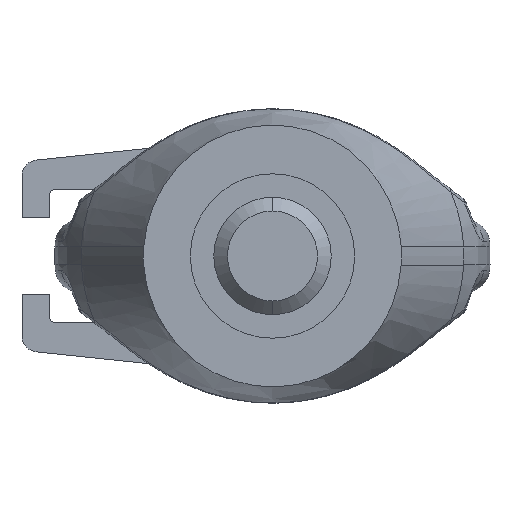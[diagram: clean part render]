
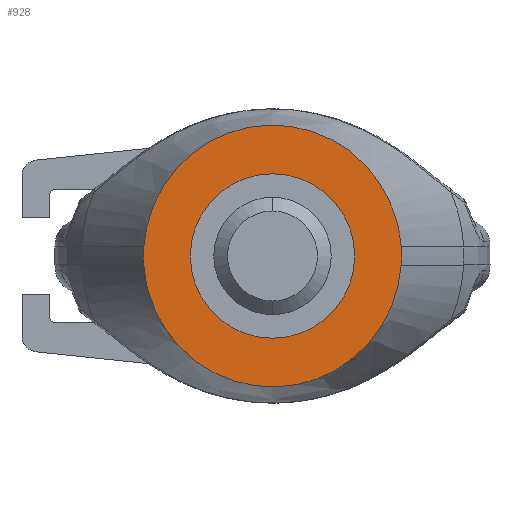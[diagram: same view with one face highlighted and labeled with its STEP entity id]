
A CAD part, front view. The second image highlights one B-rep face of the part: STEP entity #928.
In plain terms, the highlighted planar face has unit normal (0, -1, 0).
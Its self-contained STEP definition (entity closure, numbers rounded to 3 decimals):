
#928=ADVANCED_FACE('',(#2037,#2038),#2039,.T.);
#2037=FACE_OUTER_BOUND('',#10215,.T.);
#2038=FACE_BOUND('',#10216,.T.);
#2039=PLANE('',#10217);
#10215=EDGE_LOOP('',(#14287,#14288,#14289,#14290));
#10216=EDGE_LOOP('',(#14291,#14292));
#10217=AXIS2_PLACEMENT_3D('',#14293,#14294,#14295);
#14287=ORIENTED_EDGE('',*,*,#16338,.F.);
#14288=ORIENTED_EDGE('',*,*,#16647,.T.);
#14289=ORIENTED_EDGE('',*,*,#16332,.F.);
#14290=ORIENTED_EDGE('',*,*,#16648,.T.);
#14291=ORIENTED_EDGE('',*,*,#16645,.T.);
#14292=ORIENTED_EDGE('',*,*,#16004,.T.);
#14293=CARTESIAN_POINT('',(21.0,-56.0,0.0));
#14294=DIRECTION('',(0.0,-1.0,0.0));
#14295=DIRECTION('',(0.0,0.0,-1.0));
#16004=EDGE_CURVE('',#17649,#17646,#17650,.F.);
#16332=EDGE_CURVE('',#18231,#18233,#18234,.T.);
#16338=EDGE_CURVE('',#18242,#18244,#18245,.T.);
#16645=EDGE_CURVE('',#17646,#17649,#18648,.F.);
#16647=EDGE_CURVE('',#18242,#18233,#18650,.T.);
#16648=EDGE_CURVE('',#18231,#18244,#18651,.T.);
#17646=VERTEX_POINT('',#20501);
#17649=VERTEX_POINT('',#20505);
#17650=CIRCLE('',#20506,21.);
#18231=VERTEX_POINT('',#23543);
#18233=VERTEX_POINT('',#23599);
#18234=B_SPLINE_CURVE_WITH_KNOTS('',3,(#23600,#23601,#23602,#23603,#23604,#23605,#23606,#23607,#23608,#23609,#23610,#23611,#23612,#23613,#23614,#23615,#23616,#23617,#23618,#23619,#23620,#23621,#23622,#23623,#23624,#23625,#23626,#23627,#23628,#23629,#23630,#23631,#23632,#23633,#23634,#23635,#23636,#23637,#23638,#23639,#23640,#23641,#23642),.UNSPECIFIED.,.F.,.F.,(4,1,1,1,1,1,1,1,1,1,1,1,1,1,1,1,1,1,1,1,1,1,1,1,1,1,1,1,1,1,1,1,1,1,1,1,1,1,1,1,4),(0.019,0.023,0.027,0.029,0.031,0.047,0.063,0.078,0.094,0.109,0.125,0.141,0.156,0.188,0.219,0.25,0.281,0.313,0.375,0.438,0.5,0.563,0.625,0.688,0.719,0.75,0.781,0.813,0.844,0.859,0.875,0.891,0.906,0.922,0.938,0.953,0.969,0.971,0.973,0.977,0.981),.UNSPECIFIED.);
#18242=VERTEX_POINT('',#23944);
#18244=VERTEX_POINT('',#24000);
#18245=B_SPLINE_CURVE_WITH_KNOTS('',3,(#24001,#24002,#24003,#24004,#24005,#24006,#24007,#24008,#24009,#24010,#24011,#24012,#24013,#24014,#24015,#24016,#24017,#24018,#24019,#24020,#24021,#24022,#24023,#24024,#24025,#24026,#24027,#24028,#24029,#24030,#24031,#24032,#24033,#24034,#24035,#24036,#24037,#24038,#24039,#24040,#24041,#24042,#24043),.UNSPECIFIED.,.F.,.F.,(4,1,1,1,1,1,1,1,1,1,1,1,1,1,1,1,1,1,1,1,1,1,1,1,1,1,1,1,1,1,1,1,1,1,1,1,1,1,1,1,4),(0.019,0.023,0.027,0.029,0.031,0.047,0.062,0.078,0.094,0.109,0.125,0.141,0.156,0.187,0.219,0.25,0.281,0.312,0.375,0.437,0.5,0.562,0.625,0.687,0.719,0.75,0.781,0.812,0.844,0.859,0.875,0.891,0.906,0.922,0.937,0.953,0.969,0.971,0.973,0.977,0.981),.UNSPECIFIED.);
#18648=CIRCLE('',#28360,21.);
#18650=CIRCLE('',#28362,26.396);
#18651=CIRCLE('',#28363,26.396);
#20501=CARTESIAN_POINT('',(0.,-56.0,-21.));
#20505=CARTESIAN_POINT('',(0.,-56.0,21.));
#20506=AXIS2_PLACEMENT_3D('',#30168,#30169,#30170);
#23543=CARTESIAN_POINT('',(32.871,-56.,-2.302));
#23599=CARTESIAN_POINT('',(-32.871,-56.,-2.302));
#23600=CARTESIAN_POINT('',(32.871,-56.,-2.302));
#23601=CARTESIAN_POINT('',(32.856,-56.,-2.477));
#23602=CARTESIAN_POINT('',(32.827,-56.,-2.805));
#23603=CARTESIAN_POINT('',(32.795,-56.,-3.176));
#23604=CARTESIAN_POINT('',(32.768,-56.,-3.447));
#23605=CARTESIAN_POINT('',(32.699,-56.,-4.115));
#23606=CARTESIAN_POINT('',(32.55,-56.,-5.252));
#23607=CARTESIAN_POINT('',(32.263,-56.,-6.844));
#23608=CARTESIAN_POINT('',(31.901,-56.,-8.42));
#23609=CARTESIAN_POINT('',(31.464,-56.,-9.976));
#23610=CARTESIAN_POINT('',(30.953,-56.,-11.511));
#23611=CARTESIAN_POINT('',(30.368,-56.,-13.018));
#23612=CARTESIAN_POINT('',(29.712,-56.,-14.496));
#23613=CARTESIAN_POINT('',(28.744,-56.0,-16.423));
#23614=CARTESIAN_POINT('',(27.362,-56.0,-18.739));
#23615=CARTESIAN_POINT('',(25.442,-56.0,-21.345));
#23616=CARTESIAN_POINT('',(23.279,-56.0,-23.754));
#23617=CARTESIAN_POINT('',(20.892,-56.,-25.94));
#23618=CARTESIAN_POINT('',(17.44,-56.,-28.53));
#23619=CARTESIAN_POINT('',(12.678,-56.,-31.109));
#23620=CARTESIAN_POINT('',(6.467,-56.,-33.019));
#23621=CARTESIAN_POINT('',(0.,-56.,-33.666));
#23622=CARTESIAN_POINT('',(-6.467,-56.,-33.019));
#23623=CARTESIAN_POINT('',(-12.678,-56.,-31.109));
#23624=CARTESIAN_POINT('',(-17.44,-56.,-28.53));
#23625=CARTESIAN_POINT('',(-20.892,-56.,-25.94));
#23626=CARTESIAN_POINT('',(-23.279,-56.,-23.754));
#23627=CARTESIAN_POINT('',(-25.442,-56.,-21.345));
#23628=CARTESIAN_POINT('',(-27.362,-56.0,-18.739));
#23629=CARTESIAN_POINT('',(-28.744,-56.0,-16.423));
#23630=CARTESIAN_POINT('',(-29.712,-56.0,-14.496));
#23631=CARTESIAN_POINT('',(-30.368,-56.0,-13.018));
#23632=CARTESIAN_POINT('',(-30.953,-56.0,-11.511));
#23633=CARTESIAN_POINT('',(-31.464,-56.0,-9.976));
#23634=CARTESIAN_POINT('',(-31.901,-56.,-8.42));
#23635=CARTESIAN_POINT('',(-32.263,-56.,-6.844));
#23636=CARTESIAN_POINT('',(-32.55,-56.0,-5.252));
#23637=CARTESIAN_POINT('',(-32.699,-56.,-4.115));
#23638=CARTESIAN_POINT('',(-32.768,-56.,-3.447));
#23639=CARTESIAN_POINT('',(-32.795,-56.,-3.176));
#23640=CARTESIAN_POINT('',(-32.827,-56.,-2.805));
#23641=CARTESIAN_POINT('',(-32.856,-56.,-2.477));
#23642=CARTESIAN_POINT('',(-32.871,-56.,-2.302));
#23944=CARTESIAN_POINT('',(-32.871,-56.,2.302));
#24000=CARTESIAN_POINT('',(32.871,-56.,2.302));
#24001=CARTESIAN_POINT('',(-32.871,-56.,2.302));
#24002=CARTESIAN_POINT('',(-32.856,-56.,2.477));
#24003=CARTESIAN_POINT('',(-32.827,-56.,2.805));
#24004=CARTESIAN_POINT('',(-32.795,-56.,3.176));
#24005=CARTESIAN_POINT('',(-32.768,-56.,3.447));
#24006=CARTESIAN_POINT('',(-32.699,-56.,4.115));
#24007=CARTESIAN_POINT('',(-32.55,-56.,5.252));
#24008=CARTESIAN_POINT('',(-32.263,-56.,6.844));
#24009=CARTESIAN_POINT('',(-31.901,-56.,8.42));
#24010=CARTESIAN_POINT('',(-31.464,-56.0,9.976));
#24011=CARTESIAN_POINT('',(-30.953,-56.0,11.511));
#24012=CARTESIAN_POINT('',(-30.368,-56.0,13.018));
#24013=CARTESIAN_POINT('',(-29.712,-56.0,14.496));
#24014=CARTESIAN_POINT('',(-28.744,-56.0,16.423));
#24015=CARTESIAN_POINT('',(-27.362,-56.0,18.739));
#24016=CARTESIAN_POINT('',(-25.442,-56.,21.345));
#24017=CARTESIAN_POINT('',(-23.279,-56.,23.754));
#24018=CARTESIAN_POINT('',(-20.892,-56.,25.94));
#24019=CARTESIAN_POINT('',(-17.44,-56.,28.53));
#24020=CARTESIAN_POINT('',(-12.678,-56.,31.109));
#24021=CARTESIAN_POINT('',(-6.467,-56.,33.019));
#24022=CARTESIAN_POINT('',(0.,-56.,33.666));
#24023=CARTESIAN_POINT('',(6.467,-56.,33.019));
#24024=CARTESIAN_POINT('',(12.678,-56.,31.109));
#24025=CARTESIAN_POINT('',(17.44,-56.,28.53));
#24026=CARTESIAN_POINT('',(20.892,-56.,25.94));
#24027=CARTESIAN_POINT('',(23.279,-56.0,23.754));
#24028=CARTESIAN_POINT('',(25.442,-56.0,21.345));
#24029=CARTESIAN_POINT('',(27.362,-56.0,18.739));
#24030=CARTESIAN_POINT('',(28.744,-56.0,16.423));
#24031=CARTESIAN_POINT('',(29.712,-56.,14.496));
#24032=CARTESIAN_POINT('',(30.368,-56.,13.018));
#24033=CARTESIAN_POINT('',(30.953,-56.,11.511));
#24034=CARTESIAN_POINT('',(31.464,-56.,9.976));
#24035=CARTESIAN_POINT('',(31.901,-56.,8.42));
#24036=CARTESIAN_POINT('',(32.263,-56.,6.844));
#24037=CARTESIAN_POINT('',(32.55,-56.,5.252));
#24038=CARTESIAN_POINT('',(32.699,-56.,4.115));
#24039=CARTESIAN_POINT('',(32.768,-56.,3.447));
#24040=CARTESIAN_POINT('',(32.795,-56.,3.176));
#24041=CARTESIAN_POINT('',(32.827,-56.,2.805));
#24042=CARTESIAN_POINT('',(32.856,-56.,2.477));
#24043=CARTESIAN_POINT('',(32.871,-56.,2.302));
#28360=AXIS2_PLACEMENT_3D('',#30848,#30849,#30850);
#28362=AXIS2_PLACEMENT_3D('',#30851,#30852,#30853);
#28363=AXIS2_PLACEMENT_3D('',#30854,#30855,#30856);
#30168=CARTESIAN_POINT('',(0.,-56.0,0.0));
#30169=DIRECTION('',(0.0,-1.0,0.0));
#30170=DIRECTION('',(0.0,0.0,-1.0));
#30848=CARTESIAN_POINT('',(0.,-56.0,0.0));
#30849=DIRECTION('',(0.0,-1.0,0.0));
#30850=DIRECTION('',(0.0,0.0,-1.0));
#30851=CARTESIAN_POINT('',(-6.575,-56.0,0.));
#30852=DIRECTION('',(0.0,-1.0,-0.0));
#30853=DIRECTION('',(-0.996,0.0,-0.087));
#30854=CARTESIAN_POINT('',(6.575,-56.0,0.));
#30855=DIRECTION('',(0.0,-1.0,0.0));
#30856=DIRECTION('',(0.996,0.0,0.087));
